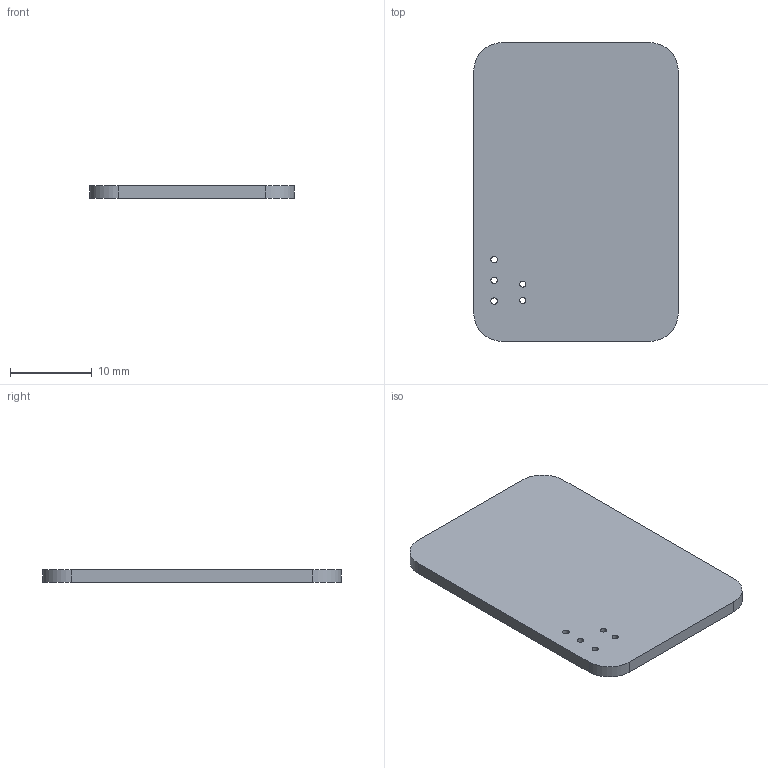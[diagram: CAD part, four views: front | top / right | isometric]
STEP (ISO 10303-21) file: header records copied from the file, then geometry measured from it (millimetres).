
FILE_DESCRIPTION(/* description */ ('STEP AP242 Edition 2','CAx-IF Rec.Pracs.---Representation and Presentation of Product Manufacturing Information (PMI)---4.0---2014-10-13','CAx-IF Rec.Pracs.---3D Tessellated Geometry---0.4---2014-09-14','2;1','CAx-IF Rec.Pracs.---User Defined Attributes---1.5---2016-08-15'),/* implementation_level */ '2;1');
FILE_NAME(/* name */ 'Assembly 1 - levelsense_PCB',/* time_stamp */ '2026-09-16T18:36:09Z',/* author */ (''),/* organization */ (''),/* preprocessor_version */ 'ST-DEVELOPER v20',/* originating_system */ 'ONSHAPE BY PTC INC, 1.220',/* authorisation */ ' ');
FILE_SCHEMA (('AP242_MANAGED_MODEL_BASED_3D_ENGINEERING_MIM_LF { 1 0 10303 442 3 1 4 }'));
Length unit declared in the file: centimetre
Products named in the file (1): levelsense_PCB
Bounding box: 25 x 36.5 x 1.51 mm (x, y, z)
Volume: 1358.4 mm3; surface area: 1994.3 mm2
Topology: 1 solids, 1 shells, 15 faces, 39 edges, 26 vertices
Faces by surface type: cylinder 9, plane 6
Full cylindrical faces by diameter (mm): 0.75 x2, 0.8 x3
Entity records: 488 total; most frequent: DIRECTION 84, CARTESIAN_POINT 76, ORIENTED_EDGE 68, EDGE_CURVE 34, AXIS2_PLACEMENT_3D 34, EDGE_LOOP 30, FACE_BOUND 30, VERTEX_POINT 26
